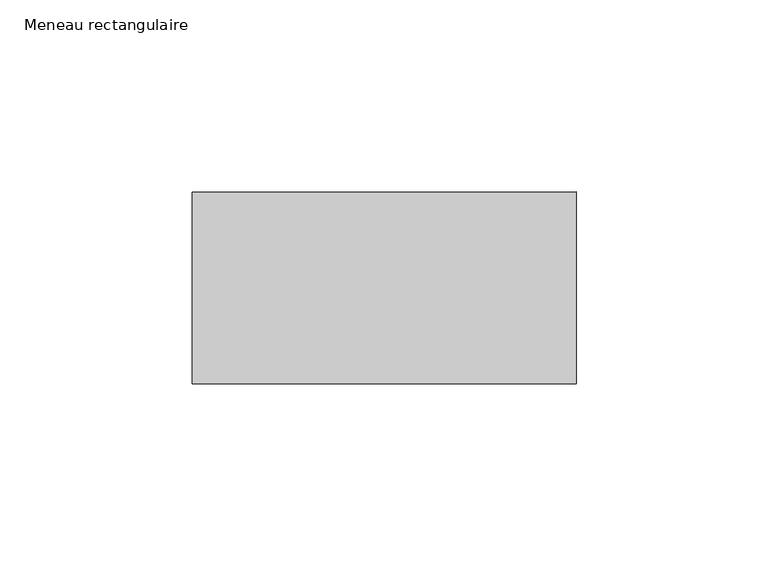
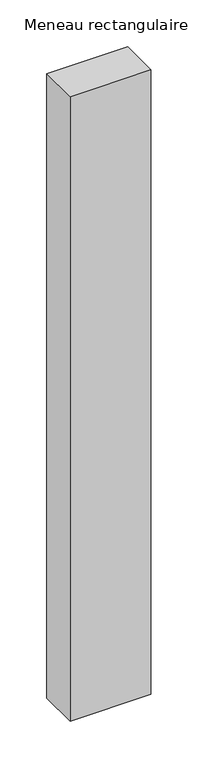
"""IFC4 building model written with IfcOpenShell, lengths in millimetres: member geometry, Meneau rectangulaire : 10x5cm aluminium laqué gris."""

import ifcopenshell
import ifcopenshell.guid

model = None  # the IFC model being written
_history = None  # IfcOwnerHistory: only IFC2X3 demands one
_inside = {}  # id of a spatial element -> (the spatial element, [elements in it])
_under = {}  # id of a project, library or spatial element -> (it, [spatial elements below it])
_declared = {}  # id of a project -> (the project, [libraries it declares])
_typed = {}  # id of a type object -> (the type object, [elements of that type])
_made_of = {}  # id of a material, layer set ... -> (it, [elements and type objects made of it])


def new_model(schema):
    """Start an empty IFC model of exactly this schema.

    Asked for "IFC4X3", IfcOpenShell would pick the latest addendum, in which some entities
    have other attributes; the version numbers below select the first issue.
    IFC2X3 requires an IfcOwnerHistory on every rooted entity: one is made here for all.
    """
    global model, _history
    if schema == "IFC4X3":
        model = ifcopenshell.file(schema_version=(4, 3, 0, 0))
    else:
        model = ifcopenshell.file(schema=schema)
    _inside.clear()
    _under.clear()
    _declared.clear()
    _typed.clear()
    _made_of.clear()
    _history = None
    if model.schema == "IFC2X3":
        org = make("IfcOrganization", Name="unknown")
        user = make(
            "IfcPersonAndOrganization",
            ThePerson=make("IfcPerson", FamilyName="unknown"),
            TheOrganization=org,
        )
        app = make(
            "IfcApplication",
            ApplicationDeveloper=org,
            Version="unknown",
            ApplicationFullName="unknown",
            ApplicationIdentifier="unknown",
        )
        _history = make(
            "IfcOwnerHistory",
            OwningUser=user,
            OwningApplication=app,
            ChangeAction="ADDED",
            CreationDate=0,
        )
    return model


def make(cls, **values):
    """One entity of the class cls with the attributes given. An attribute that is None is left unset."""
    return model.create_entity(
        cls, **{name: value for name, value in values.items() if value is not None}
    )


def rooted(cls, **values):
    """An entity with a GlobalId (a new one), such as an element, a storey or a relation."""
    return make(cls, GlobalId=ifcopenshell.guid.new(), OwnerHistory=_history, **values)


def si_unit(unit_type, name, prefix=None):
    """IfcSIUnit, for example si_unit("LENGTHUNIT", "METRE", prefix="MILLI")."""
    return make("IfcSIUnit", UnitType=unit_type, Prefix=prefix, Name=name)


def assignment(units):
    """IfcUnitAssignment: the units of a project."""
    return None if units is None else make("IfcUnitAssignment", Units=units)


def point(xyz):
    """IfcCartesianPoint."""
    return None if xyz is None else make("IfcCartesianPoint", Coordinates=xyz)


def direction(xyz):
    """IfcDirection."""
    return None if xyz is None else make("IfcDirection", DirectionRatios=xyz)


def frame(location, z_axis=None, x_axis=None):
    """IfcAxis2Placement3D, a coordinate frame: its origin and axes. An axis left out is left unset."""
    return make(
        "IfcAxis2Placement3D",
        Location=point(location),
        Axis=direction(z_axis),
        RefDirection=direction(x_axis),
    )


def origin():
    """The frame at (0, 0, 0) with its axes left unset."""
    return frame((0.0, 0.0, 0.0))


def place(relative_to, where):
    """IfcLocalPlacement: puts the frame where relative to a parent placement (None: the world)."""
    return make(
        "IfcLocalPlacement", PlacementRelTo=relative_to, RelativePlacement=where
    )


def context(
    kind, dimensions, precision=None, world=None, true_north=None, identifier=None
):
    """IfcGeometricRepresentationContext, for example the 3D "Model" context."""
    return make(
        "IfcGeometricRepresentationContext",
        ContextIdentifier=identifier,
        ContextType=kind,
        CoordinateSpaceDimension=dimensions,
        Precision=precision,
        WorldCoordinateSystem=world,
        TrueNorth=true_north,
    )


def project(units=None, contexts=None):
    """IfcProject with its units and contexts."""
    return rooted(
        "IfcProject",
        Name="project",
        RepresentationContexts=contexts,
        UnitsInContext=assignment(units),
    )


def spatial(cls, under=None, at=None, **own):
    """A site, building, storey or space (cls), placed at a placement, below another one or the project."""
    s = rooted(cls, ObjectPlacement=at, **own)
    if under is not None:
        _under.setdefault(under.id(), (under, []))[1].append(s)
    return s


def polyline(points):
    """IfcPolyline through the points."""
    return make("IfcPolyline", Points=[point(p) for p in points])


def outline(outer, holes=None, kind="AREA"):
    """IfcArbitraryClosedProfileDef: a profile drawn as a closed curve; with holes, ...WithVoids."""
    if holes is None:
        return make("IfcArbitraryClosedProfileDef", ProfileType=kind, OuterCurve=outer)
    return make(
        "IfcArbitraryProfileDefWithVoids",
        ProfileType=kind,
        OuterCurve=outer,
        InnerCurves=holes,
    )


def extrude(swept, where, along, depth):
    """IfcExtrudedAreaSolid: the profile swept, set in the frame where, extruded along a direction by depth."""
    return make(
        "IfcExtrudedAreaSolid",
        SweptArea=swept,
        Position=where,
        ExtrudedDirection=direction(along),
        Depth=depth,
    )


def shape(context_of_items, identifier, shape_type, items):
    """IfcShapeRepresentation: the items that make up one representation, for example the "Body"."""
    return make(
        "IfcShapeRepresentation",
        ContextOfItems=context_of_items,
        RepresentationIdentifier=identifier,
        RepresentationType=shape_type,
        Items=items,
    )


def source(mapping_origin, context_of_items, identifier, shape_type, items):
    """IfcRepresentationMap: a shape defined once, which mapped items show again and again."""
    return make(
        "IfcRepresentationMap",
        MappingOrigin=mapping_origin,
        MappedRepresentation=shape(context_of_items, identifier, shape_type, items),
    )


def transform(
    local_origin,
    x_axis=None,
    y_axis=None,
    z_axis=None,
    scale=None,
    scale2=None,
    scale3=None,
    uniform=True,
):
    """IfcCartesianTransformationOperator3D, or its non-uniform kind. x_axis, y_axis, z_axis: its Axis1, 2, 3."""
    if uniform:
        return make(
            "IfcCartesianTransformationOperator3D",
            Axis1=direction(x_axis),
            Axis2=direction(y_axis),
            LocalOrigin=point(local_origin),
            Scale=scale,
            Axis3=direction(z_axis),
        )
    return make(
        "IfcCartesianTransformationOperator3DnonUniform",
        Axis1=direction(x_axis),
        Axis2=direction(y_axis),
        LocalOrigin=point(local_origin),
        Scale=scale,
        Axis3=direction(z_axis),
        Scale2=scale2,
        Scale3=scale3,
    )


def mapped(mapping_source, mapping_target):
    """IfcMappedItem: shows the shape of a source again, moved by a transform."""
    return make(
        "IfcMappedItem", MappingSource=mapping_source, MappingTarget=mapping_target
    )


def made_of(thing, what):
    """Note that an element or type object is made of a material, layer set ...; save() writes the relation."""
    if what is not None:
        _made_of.setdefault(what.id(), (what, []))[1].append(thing)
    return thing


def element(
    cls,
    number,
    at=None,
    inside=None,
    cuts=None,
    type_object=None,
    material=None,
    context=None,
    identifier="Body",
    shape_type=None,
    held_by="IfcProductDefinitionShape",
    body=None,
    shapes=None,
    **own,
):
    """One element of the class cls, such as IfcWall. Its Tag is "e" and its number.

    at: its placement. inside: the storey or other place that contains it. cuts: it is an
    opening in that element (IfcRelVoidsElement). A single representation is given by context,
    identifier, shape_type and body (its items); several are given by shapes. held_by: the class
    of the entity that holds the representations. save() writes the other relations.
    """
    e = rooted(cls, Tag="e%d" % number, ObjectPlacement=at, **own)
    if body is not None:
        shapes = [shape(context, identifier, shape_type, body)]
    if shapes is not None:
        e.Representation = make(held_by, Representations=shapes)
    if inside is not None:
        _inside.setdefault(inside.id(), (inside, []))[1].append(e)
    if cuts is not None:
        rooted(
            "IfcRelVoidsElement", RelatingBuildingElement=cuts, RelatedOpeningElement=e
        )
    if type_object is not None:
        _typed.setdefault(type_object.id(), (type_object, []))[1].append(e)
    return made_of(e, material)


def aggregate(whole, parts):
    """IfcRelAggregates: a whole, such as a stair, and the parts it consists of."""
    return rooted("IfcRelAggregates", RelatingObject=whole, RelatedObjects=parts)


def save(model, path):
    """Write the relations noted so far, then the file.

    IfcRelAggregates (storeys below a building ...), IfcRelContainedInSpatialStructure (elements
    in a storey), IfcRelDefinesByType, IfcRelAssociatesMaterial and IfcRelDeclares: one each for
    every whole, place, type object, material and project.
    """
    for whole, parts in _under.values():
        aggregate(whole, parts)
    for where, things in _inside.values():
        rooted(
            "IfcRelContainedInSpatialStructure",
            RelatedElements=things,
            RelatingStructure=where,
        )
    for kind, things in _typed.values():
        rooted("IfcRelDefinesByType", RelatedObjects=things, RelatingType=kind)
    for what, things in _made_of.values():
        rooted("IfcRelAssociatesMaterial", RelatedObjects=things, RelatingMaterial=what)
    for by, libraries in _declared.values():
        rooted("IfcRelDeclares", RelatingContext=by, RelatedDefinitions=libraries)
    model.write(path)


def meneau_rectangulaire_553993f6(model_context):
    return source(origin(), model_context, "Body", "SweptSolid", [
        extrude(outline(polyline([(0.0, 25.0), (0.0, -25.0), (-100.0, -25.0), (-100.0, 25.0), (0.0, 25.0)])), frame((0.0, 0.0, -816.05362), z_axis=(0.0, 0.0, 1.0), x_axis=(1.0, 0.0, 0.0)), (0.0, 0.0, 1.0), 816.05362),
    ])


if __name__ == "__main__":
    model = new_model("IFC4")
    model_context = context("Model", 3, world=origin())
    ifc_project = project(units=[si_unit("LENGTHUNIT", "METRE", prefix="MILLI")], contexts=[model_context])
    site = spatial("IfcSite", under=ifc_project)
    building = spatial("IfcBuilding", under=site)
    placement = place(None, origin())
    meneau_rectangulaire_shape = meneau_rectangulaire_553993f6(model_context)
    element("IfcMember", 1, ObjectType="Meneau rectangulaire : 10x5cm aluminium laqué gris", at=placement, inside=building, context=model_context, shape_type="MappedRepresentation", body=[
        mapped(meneau_rectangulaire_shape, transform((0.0, 0.0, 0.0), x_axis=(1.0, 0.0, 0.0), y_axis=(0.0, 1.0, 0.0), z_axis=(0.0, 0.0, 1.0))),
    ])
    save(model, "model.ifc")
